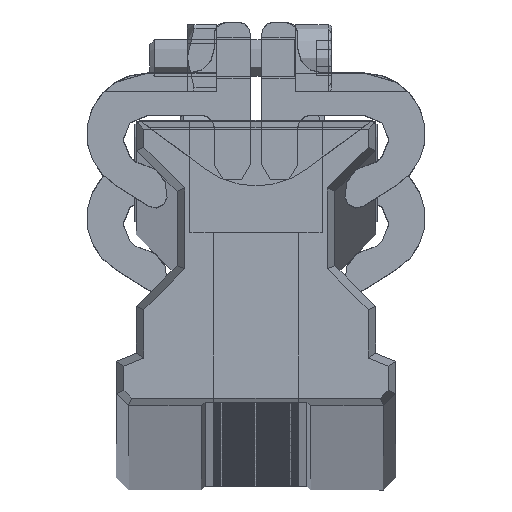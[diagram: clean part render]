
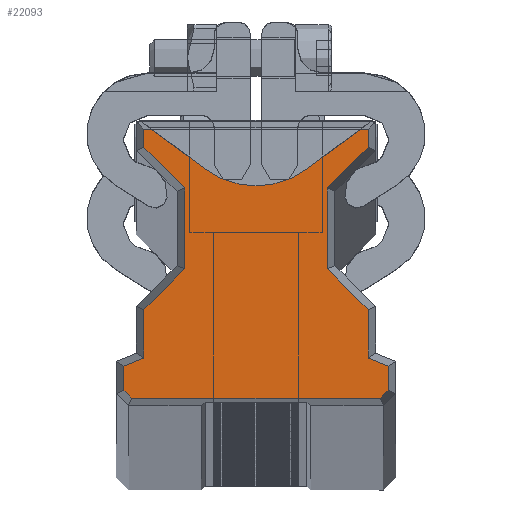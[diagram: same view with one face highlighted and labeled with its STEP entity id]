
A CAD part, top view. The second image highlights one B-rep face of the part: STEP entity #22093.
In plain terms, the highlighted planar face has unit normal (0, 0, 1).
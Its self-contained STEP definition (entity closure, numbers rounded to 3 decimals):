
#8110=DIRECTION('',(1.,0.,0.));
#8111=VECTOR('',#8110,20.489);
#8112=CARTESIAN_POINT('',(-10.244,0.617,0.));
#8113=LINE('',#8112,#8111);
#8114=DIRECTION('',(0.707,-0.707,0.));
#8115=VECTOR('',#8114,0.903);
#8116=CARTESIAN_POINT('',(-10.883,1.256,0.));
#8117=LINE('',#8116,#8115);
#8118=DIRECTION('',(0.,-1.,0.));
#8119=VECTOR('',#8118,1.981);
#8120=CARTESIAN_POINT('',(-10.883,3.237,0.));
#8121=LINE('',#8120,#8119);
#8122=DIRECTION('',(0.925,0.381,0.));
#8123=VECTOR('',#8122,1.784);
#8124=CARTESIAN_POINT('',(-10.883,3.237,0.));
#8125=LINE('',#8124,#8123);
#8126=DIRECTION('',(0.,-1.,0.));
#8127=VECTOR('',#8126,4.003);
#8128=CARTESIAN_POINT('',(-9.233,7.919,0.));
#8129=LINE('',#8128,#8127);
#8130=DIRECTION('',(-0.707,-0.707,0.));
#8131=VECTOR('',#8130,4.738);
#8132=CARTESIAN_POINT('',(-5.883,11.269,0.));
#8133=LINE('',#8132,#8131);
#8134=DIRECTION('',(0.,-1.,0.));
#8135=VECTOR('',#8134,6.661);
#8136=CARTESIAN_POINT('',(-5.883,17.931,0.));
#8137=LINE('',#8136,#8135);
#8138=DIRECTION('',(0.707,-0.707,0.));
#8139=VECTOR('',#8138,4.738);
#8140=CARTESIAN_POINT('',(-9.233,21.281,0.));
#8141=LINE('',#8140,#8139);
#8142=DIRECTION('',(0.,-1.,0.));
#8143=VECTOR('',#8142,1.502);
#8144=CARTESIAN_POINT('',(-9.233,22.783,0.));
#8145=LINE('',#8144,#8143);
#8146=DIRECTION('',(-1.,0.,0.));
#8147=VECTOR('',#8146,18.466);
#8148=CARTESIAN_POINT('',(9.233,22.783,0.));
#8149=LINE('',#8148,#8147);
#8150=DIRECTION('',(0.,1.,0.));
#8151=VECTOR('',#8150,1.502);
#8152=CARTESIAN_POINT('',(9.233,21.281,0.));
#8153=LINE('',#8152,#8151);
#8154=DIRECTION('',(-0.707,-0.707,0.));
#8155=VECTOR('',#8154,4.738);
#8156=CARTESIAN_POINT('',(9.233,21.281,0.));
#8157=LINE('',#8156,#8155);
#8158=DIRECTION('',(0.,1.,0.));
#8159=VECTOR('',#8158,6.661);
#8160=CARTESIAN_POINT('',(5.883,11.269,0.));
#8161=LINE('',#8160,#8159);
#8162=DIRECTION('',(-0.707,0.707,0.));
#8163=VECTOR('',#8162,4.738);
#8164=CARTESIAN_POINT('',(9.233,7.919,0.));
#8165=LINE('',#8164,#8163);
#8166=DIRECTION('',(0.,1.,0.));
#8167=VECTOR('',#8166,4.003);
#8168=CARTESIAN_POINT('',(9.233,3.916,0.));
#8169=LINE('',#8168,#8167);
#8170=DIRECTION('',(-0.925,0.381,0.));
#8171=VECTOR('',#8170,1.784);
#8172=CARTESIAN_POINT('',(10.883,3.237,0.));
#8173=LINE('',#8172,#8171);
#8174=DIRECTION('',(0.,1.,0.));
#8175=VECTOR('',#8174,1.981);
#8176=CARTESIAN_POINT('',(10.883,1.256,0.));
#8177=LINE('',#8176,#8175);
#8178=DIRECTION('',(0.707,0.707,0.));
#8179=VECTOR('',#8178,0.903);
#8180=CARTESIAN_POINT('',(10.244,0.617,0.));
#8181=LINE('',#8180,#8179);
#8558=CARTESIAN_POINT('',(-10.244,0.617,0.));
#8559=CARTESIAN_POINT('',(10.244,0.617,0.));
#8560=VERTEX_POINT('',#8558);
#8561=VERTEX_POINT('',#8559);
#8562=CARTESIAN_POINT('',(10.883,1.256,0.));
#8563=VERTEX_POINT('',#8562);
#8564=CARTESIAN_POINT('',(10.883,3.237,0.));
#8565=VERTEX_POINT('',#8564);
#8566=CARTESIAN_POINT('',(9.233,3.916,0.));
#8567=VERTEX_POINT('',#8566);
#8568=CARTESIAN_POINT('',(9.233,7.919,0.));
#8569=VERTEX_POINT('',#8568);
#8570=CARTESIAN_POINT('',(5.883,11.269,0.));
#8571=VERTEX_POINT('',#8570);
#8572=CARTESIAN_POINT('',(5.883,17.931,0.));
#8573=VERTEX_POINT('',#8572);
#8574=CARTESIAN_POINT('',(9.233,21.281,0.));
#8575=VERTEX_POINT('',#8574);
#8576=CARTESIAN_POINT('',(9.233,22.783,0.));
#8577=VERTEX_POINT('',#8576);
#8578=CARTESIAN_POINT('',(-9.233,22.783,0.));
#8579=VERTEX_POINT('',#8578);
#8580=CARTESIAN_POINT('',(-9.233,21.281,0.));
#8581=VERTEX_POINT('',#8580);
#8582=CARTESIAN_POINT('',(-5.883,17.931,0.));
#8583=VERTEX_POINT('',#8582);
#8584=CARTESIAN_POINT('',(-5.883,11.269,0.));
#8585=VERTEX_POINT('',#8584);
#8586=CARTESIAN_POINT('',(-9.233,7.919,0.));
#8587=VERTEX_POINT('',#8586);
#8588=CARTESIAN_POINT('',(-9.233,3.916,0.));
#8589=VERTEX_POINT('',#8588);
#8590=CARTESIAN_POINT('',(-10.883,3.237,0.));
#8591=VERTEX_POINT('',#8590);
#10622=CARTESIAN_POINT('',(-10.883,1.256,0.));
#10623=VERTEX_POINT('',#10622);
#22051=CARTESIAN_POINT('',(0.,0.,0.));
#22052=DIRECTION('',(0.,0.,1.));
#22053=DIRECTION('',(1.,0.,0.));
#22054=AXIS2_PLACEMENT_3D('',#22051,#22052,#22053);
#22055=PLANE('',#22054);
#22057=ORIENTED_EDGE('',*,*,#22056,.F.);
#22059=ORIENTED_EDGE('',*,*,#22058,.F.);
#22061=ORIENTED_EDGE('',*,*,#22060,.F.);
#22063=ORIENTED_EDGE('',*,*,#22062,.T.);
#22065=ORIENTED_EDGE('',*,*,#22064,.F.);
#22067=ORIENTED_EDGE('',*,*,#22066,.F.);
#22069=ORIENTED_EDGE('',*,*,#22068,.F.);
#22070=ORIENTED_EDGE('',*,*,#22041,.F.);
#22072=ORIENTED_EDGE('',*,*,#22071,.F.);
#22074=ORIENTED_EDGE('',*,*,#22073,.F.);
#22076=ORIENTED_EDGE('',*,*,#22075,.F.);
#22078=ORIENTED_EDGE('',*,*,#22077,.T.);
#22080=ORIENTED_EDGE('',*,*,#22079,.F.);
#22082=ORIENTED_EDGE('',*,*,#22081,.F.);
#22084=ORIENTED_EDGE('',*,*,#22083,.F.);
#22086=ORIENTED_EDGE('',*,*,#22085,.F.);
#22088=ORIENTED_EDGE('',*,*,#22087,.F.);
#22090=ORIENTED_EDGE('',*,*,#22089,.F.);
#22091=EDGE_LOOP('',(#22057,#22059,#22061,#22063,#22065,#22067,#22069,#22070,
#22072,#22074,#22076,#22078,#22080,#22082,#22084,#22086,#22088,#22090));
#22092=FACE_OUTER_BOUND('',#22091,.F.);
#22041=EDGE_CURVE('',#8581,#8583,#8141,.T.);
#22056=EDGE_CURVE('',#8560,#8561,#8113,.T.);
#22058=EDGE_CURVE('',#10623,#8560,#8117,.T.);
#22060=EDGE_CURVE('',#8591,#10623,#8121,.T.);
#22062=EDGE_CURVE('',#8591,#8589,#8125,.T.);
#22064=EDGE_CURVE('',#8587,#8589,#8129,.T.);
#22066=EDGE_CURVE('',#8585,#8587,#8133,.T.);
#22068=EDGE_CURVE('',#8583,#8585,#8137,.T.);
#22071=EDGE_CURVE('',#8579,#8581,#8145,.T.);
#22073=EDGE_CURVE('',#8577,#8579,#8149,.T.);
#22075=EDGE_CURVE('',#8575,#8577,#8153,.T.);
#22077=EDGE_CURVE('',#8575,#8573,#8157,.T.);
#22079=EDGE_CURVE('',#8571,#8573,#8161,.T.);
#22081=EDGE_CURVE('',#8569,#8571,#8165,.T.);
#22083=EDGE_CURVE('',#8567,#8569,#8169,.T.);
#22085=EDGE_CURVE('',#8565,#8567,#8173,.T.);
#22087=EDGE_CURVE('',#8563,#8565,#8177,.T.);
#22089=EDGE_CURVE('',#8561,#8563,#8181,.T.);
#22093=ADVANCED_FACE('',(#22092),#22055,.T.);
